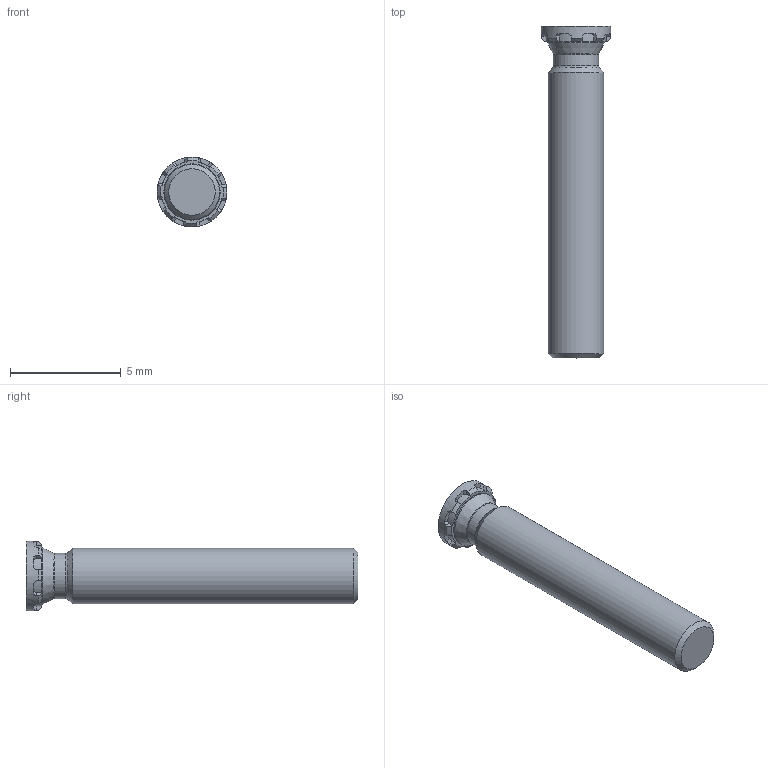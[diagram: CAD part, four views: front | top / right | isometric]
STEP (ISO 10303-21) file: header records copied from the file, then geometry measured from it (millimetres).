
FILE_DESCRIPTION(/* description */ (''),/* implementation_level */ '2;1');
FILE_NAME(/* name */ 'C:\Users\keval.kumar\Desktop\Fastit\Clinch Screw- Reduced FH Range\M2.5\Clinch Screw-Reduced FH Range_M2.5x15.stp',/* time_stamp */ '2024-03-12T12:41:24+05:00',/* author */ ('keval.kumar'),/* organization */ (''),/* preprocessor_version */ 'ST-DEVELOPER v18.1',/* originating_system */ 'Autodesk Inventor 2022',/* authorisation */ '');
FILE_SCHEMA (('AUTOMOTIVE_DESIGN { 1 0 10303 214 3 1 1 }'));
Length unit declared in the file: millimetre
Products named in the file (1): Clinch Screw-Reduced FH Range_M2.5x15
Bounding box: 3.15 x 15 x 3.15 mm (x, y, z)
Volume: 73.6 mm3; surface area: 133.3 mm2
Topology: 1 solids, 1 shells, 68 faces, 193 edges, 128 vertices
Faces by surface type: plane 43, cylinder 12, cone 11, torus 2
Full cylindrical faces by diameter (mm): 2.05 x1, 2.5 x1, 2.55 x1, 3.15 x1
Entity records: 2278 total; most frequent: CARTESIAN_POINT 422, DIRECTION 405, ORIENTED_EDGE 386, EDGE_CURVE 193, AXIS2_PLACEMENT_3D 159, VERTEX_POINT 128, LINE 87, VECTOR 87
